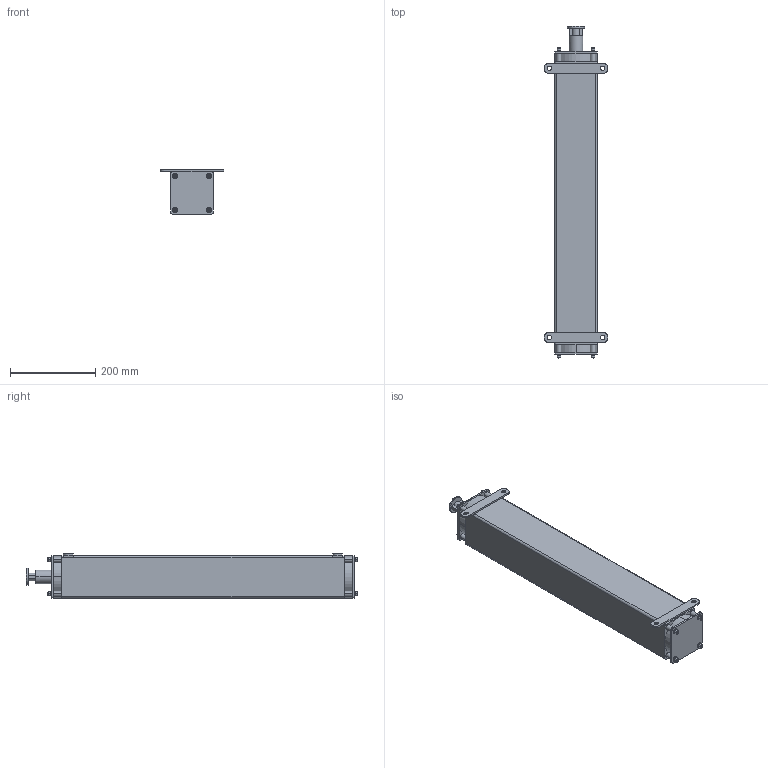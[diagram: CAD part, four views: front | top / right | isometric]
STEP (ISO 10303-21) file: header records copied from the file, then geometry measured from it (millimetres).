
FILE_DESCRIPTION((''),'2;1');
FILE_NAME('EFB-EX_ASM','2021-08-19T10:27:57',('18720616900'),(''),'CREO PARAMETRIC BY PTC INC, 2019010','CREO PARAMETRIC BY PTC INC, 2019010','');
FILE_SCHEMA(('CONFIG_CONTROL_DESIGN'));
Length unit declared in the file: millimetre
Products named in the file (6): EFB-EX-115; M6-50-0001; M6-1--00; M6-1-00; 0001_ASM; EFB-EX_ASM
Assembly tree (12 placements, depth 3):
  EFB-EX_ASM
    EFB-EX-115
    0001_ASM  x8
      M6-50-0001
      M6-1--00
      M6-1-00
Bounding box: 150 x 779.5 x 104 mm (x, y, z)
Volume: 938084.4 mm3; surface area: 593451.8 mm2
Topology: 25 solids, 33 shells, 1249 faces, 3236 edges, 2074 vertices
Faces by surface type: cone 488, plane 265, bspline 264, cylinder 182, torus 50
Entity records: 19619 total; most frequent: CARTESIAN_POINT 10839, ORIENTED_EDGE 1806, DIRECTION 1744, EDGE_CURVE 919, AXIS2_PLACEMENT_3D 655, VERTEX_POINT 597, VECTOR 434, LINE 434
